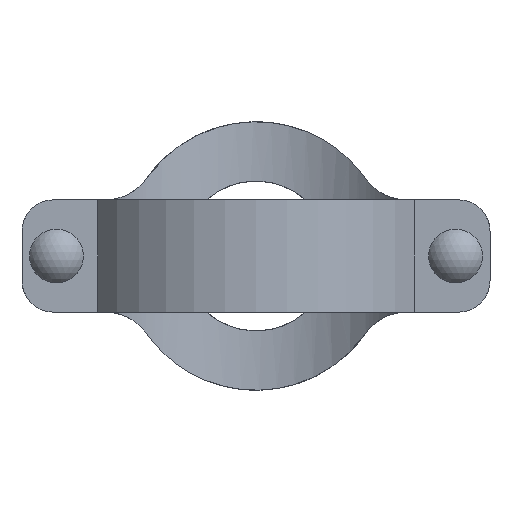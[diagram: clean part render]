
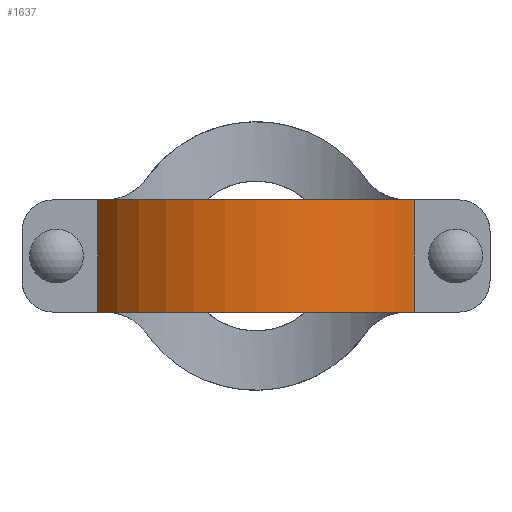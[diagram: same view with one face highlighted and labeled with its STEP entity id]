
A CAD part, front view. The second image highlights one B-rep face of the part: STEP entity #1637.
In plain terms, the highlighted cylindrical face has radius 95.25 mm (diameter 190.5 mm), a partial arc.
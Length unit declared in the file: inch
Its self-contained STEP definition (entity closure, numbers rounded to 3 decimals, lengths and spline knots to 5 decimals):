
#102=CYLINDRICAL_SURFACE('',#1789,3.75);
#183=FACE_OUTER_BOUND('',#270,.T.);
#270=EDGE_LOOP('',(#1264,#1265,#1266,#1267));
#405=LINE('',#3012,#533);
#406=LINE('',#3014,#534);
#533=VECTOR('',#2157,0.3937);
#534=VECTOR('',#2158,0.3937);
#606=CIRCLE('',#1788,3.75);
#607=CIRCLE('',#1790,3.75);
#745=VERTEX_POINT('',#3005);
#746=VERTEX_POINT('',#3007);
#747=VERTEX_POINT('',#3011);
#748=VERTEX_POINT('',#3013);
#943=EDGE_CURVE('',#745,#746,#606,.T.);
#945=EDGE_CURVE('',#746,#747,#405,.T.);
#946=EDGE_CURVE('',#748,#745,#406,.T.);
#947=EDGE_CURVE('',#747,#748,#607,.T.);
#1264=ORIENTED_EDGE('',*,*,#945,.F.);
#1265=ORIENTED_EDGE('',*,*,#943,.F.);
#1266=ORIENTED_EDGE('',*,*,#946,.F.);
#1267=ORIENTED_EDGE('',*,*,#947,.F.);
#1637=ADVANCED_FACE('',(#183),#102,.T.);
#1788=AXIS2_PLACEMENT_3D('',#3008,#2152,#2153);
#1789=AXIS2_PLACEMENT_3D('',#3010,#2155,#2156);
#1790=AXIS2_PLACEMENT_3D('',#3015,#2159,#2160);
#2152=DIRECTION('center_axis',(0.,0.,1.));
#2153=DIRECTION('ref_axis',(-0.846,-0.533,0.));
#2155=DIRECTION('center_axis',(0.,0.,1.));
#2156=DIRECTION('ref_axis',(-0.846,-0.533,0.));
#2157=DIRECTION('',(0.,0.,-1.));
#2158=DIRECTION('',(0.,0.,1.));
#2159=DIRECTION('center_axis',(0.,0.,-1.));
#2160=DIRECTION('ref_axis',(-0.846,-0.533,0.));
#3005=CARTESIAN_POINT('',(-3.17214,-2.,1.125));
#3007=CARTESIAN_POINT('',(3.17214,-2.,1.125));
#3008=CARTESIAN_POINT('Origin',(0.,0.,1.125));
#3010=CARTESIAN_POINT('Origin',(0.,0.,0.));
#3011=CARTESIAN_POINT('',(3.17214,-2.,-1.125));
#3012=CARTESIAN_POINT('',(3.17214,-2.,0.));
#3013=CARTESIAN_POINT('',(-3.17214,-2.,-1.125));
#3014=CARTESIAN_POINT('',(-3.17214,-2.,0.));
#3015=CARTESIAN_POINT('Origin',(0.,0.,-1.125));
